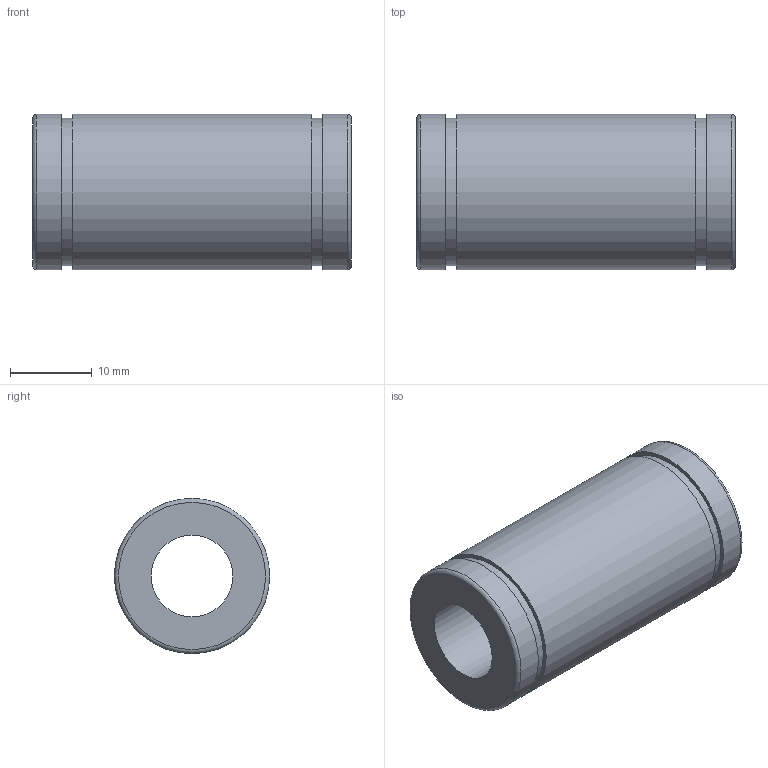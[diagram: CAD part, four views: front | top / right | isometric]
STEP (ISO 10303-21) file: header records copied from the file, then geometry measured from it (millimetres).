
FILE_DESCRIPTION(('STEP AP203'),'1');
FILE_NAME('//192.168.1.1/share/s-4 技術開発/s-4-13_CAD/03_見直し済み/001 修正済み/N-VM/N-VM_STEP/N-10VM.step','2020-04-08T00:08:27',(' '),(' '),'Spatial InterOp 3D',' ',' ');
FILE_SCHEMA(('CONFIG_CONTROL_DESIGN'));
Length unit declared in the file: millimetre
Products named in the file (1): 1
Bounding box: 39 x 19 x 19 mm (x, y, z)
Volume: 7909.8 mm3; surface area: 4045 mm2
Topology: 1 solids, 1 shells, 14 faces, 22 edges, 14 vertices
Faces by surface type: plane 6, cylinder 6, torus 2
Full cylindrical faces by diameter (mm): 10 x1, 18 x2, 19 x3
Entity records: 332 total; most frequent: DIRECTION 58, CARTESIAN_POINT 43, AXIS2_PLACEMENT_3D 29, EDGE_LOOP 28, ORIENTED_EDGE 28, FACE_OUTER_BOUND 22, ADVANCED_FACE 14, EDGE_CURVE 14
